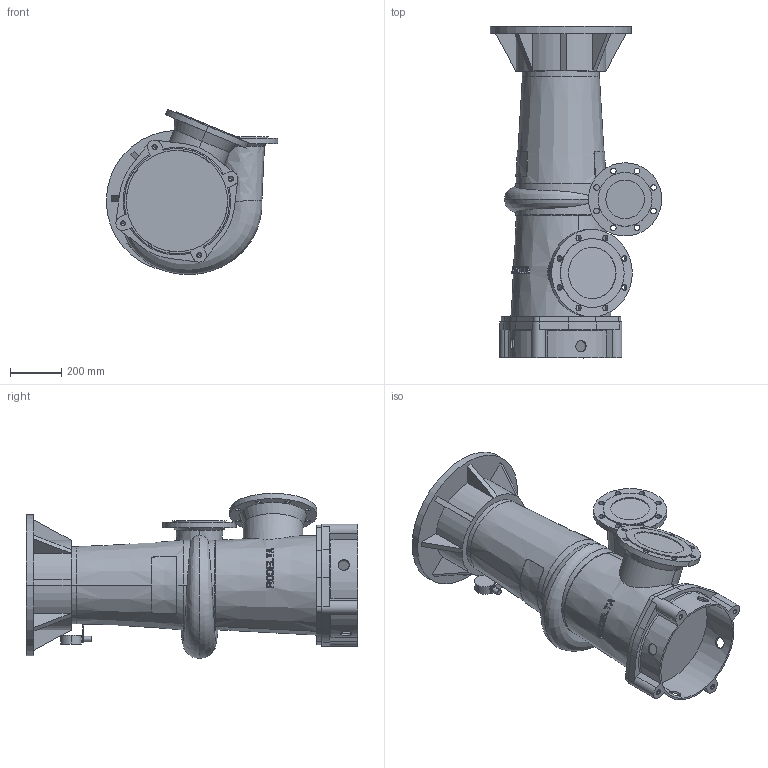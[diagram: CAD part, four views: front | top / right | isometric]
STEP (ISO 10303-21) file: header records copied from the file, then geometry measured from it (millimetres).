
FILE_DESCRIPTION((''),'2;1');
FILE_NAME('7410_VOOR_BLAD_ASM','2024-07-24T',('Lyritlocal'),(''),'PRO/ENGINEER BY PARAMETRIC TECHNOLOGY CORPORATION, 2016360','PRO/ENGINEER BY PARAMETRIC TECHNOLOGY CORPORATION, 2016360','');
FILE_SCHEMA(('CONFIG_CONTROL_DESIGN'));
Length unit declared in the file: millimetre
Products named in the file (3): 7410; 7410_VOET; 7410_VOOR_BLAD_ASM
Assembly tree (2 placements, depth 2):
  7410_VOOR_BLAD_ASM
    7410
    7410_VOET
Bounding box: 667.5 x 1292 x 643.3 mm (x, y, z)
Volume: 142858668 mm3; surface area: 3346063.5 mm2
Topology: 2 solids, 6 shells, 554 faces, 1491 edges, 983 vertices
Faces by surface type: plane 368, cylinder 138, cone 38, bspline 6, torus 4
Entity records: 19705 total; most frequent: CARTESIAN_POINT 6220, ORIENTED_EDGE 2950, DIRECTION 2529, EDGE_CURVE 1483, VERTEX_POINT 983, AXIS2_PLACEMENT_3D 961, EDGE_LOOP 646, VECTOR 607
